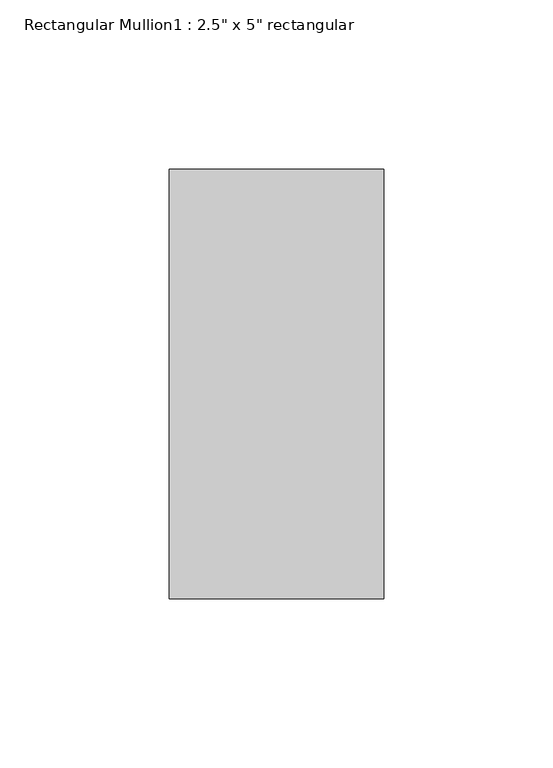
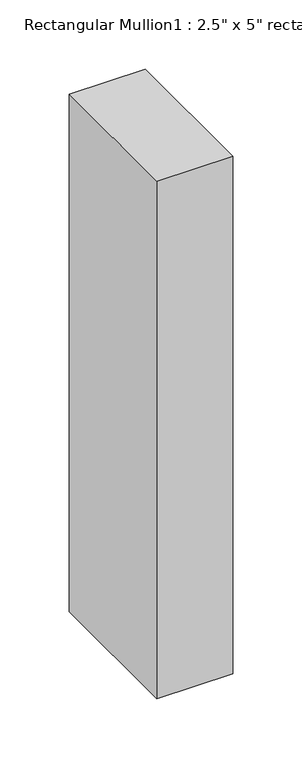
"""IFC4 building model written with IfcOpenShell, lengths in millimetres: member geometry."""

from ifc_helpers import new_model, si_unit, frame, origin, place, context, project, spatial, polyline, outline, extrude, source, transform, mapped, element, save


def member_15823cb3(model_context):
    return source(origin(), model_context, "Body", "SweptSolid", [
        extrude(outline(polyline([(0.0, 63.5), (0.0, -63.5), (-63.5, -63.5), (-63.5, 63.5), (0.0, 63.5)])), frame((0.0, 0.0, -457.2), z_axis=(0.0, 0.0, 1.0), x_axis=(1.0, 0.0, 0.0)), (0.0, 0.0, 1.0), 457.2),
    ])


if __name__ == "__main__":
    model = new_model("IFC4")
    model_context = context("Model", 3, world=origin())
    ifc_project = project(units=[si_unit("LENGTHUNIT", "METRE", prefix="MILLI")], contexts=[model_context])
    site = spatial("IfcSite", under=ifc_project)
    building = spatial("IfcBuilding", under=site)
    placement = place(None, origin())
    member_shape = member_15823cb3(model_context)
    element("IfcMember", 1, ObjectType="Rectangular Mullion1 : 2.5\" x 5\" rectangular", at=placement, inside=building, context=model_context, shape_type="MappedRepresentation", body=[
        mapped(member_shape, transform((0.0, 0.0, 0.0), x_axis=(1.0, 0.0, 0.0), y_axis=(0.0, 1.0, 0.0), z_axis=(0.0, 0.0, 1.0))),
    ])
    save(model, "model.ifc")
